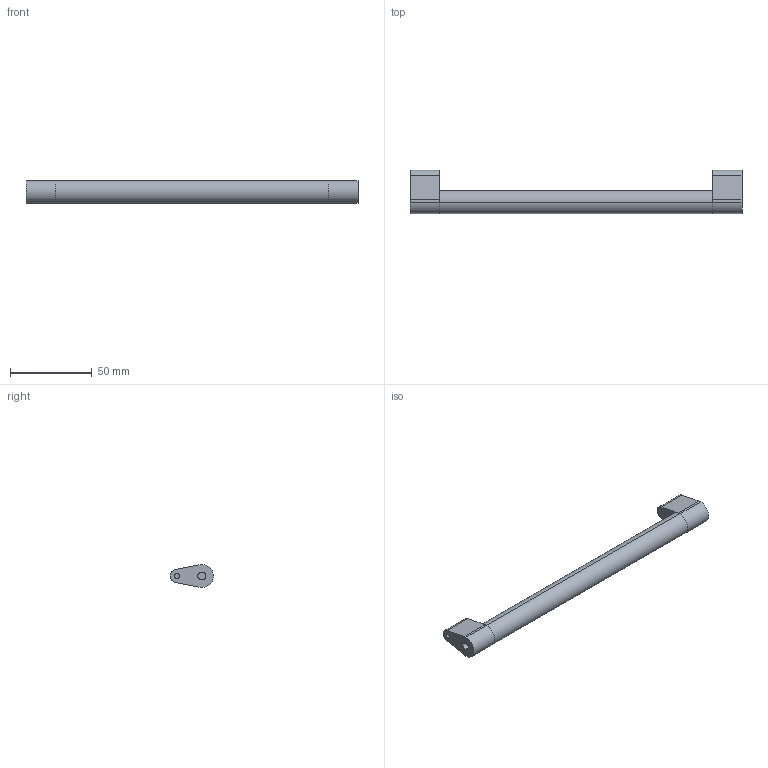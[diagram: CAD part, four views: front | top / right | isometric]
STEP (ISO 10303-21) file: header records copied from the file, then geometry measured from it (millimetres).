
FILE_DESCRIPTION (( 'STEP AP214' ), '1' );
FILE_NAME ('_Synchronisationseinheit DWD XP KAB300_S18.step', '2010-07-08T13:58:22', ( 'grass' ), ( '' ), 'SwSTEP 2.0', 'SolidWorks 2010', '' );
FILE_SCHEMA (( 'AUTOMOTIVE_DESIGN' ));
Length unit declared in the file: millimetre
Products named in the file (1): _Synchronisationseinheit DWD XP KAB300_S18
Bounding box: 203 x 26.5 x 14 mm (x, y, z)
Volume: 34936.2 mm3; surface area: 11775.4 mm2
Topology: 3 solids, 3 shells, 36 faces, 78 edges, 52 vertices
Faces by surface type: cylinder 18, plane 18
Entity records: 1050 total; most frequent: DIRECTION 188, CARTESIAN_POINT 167, ORIENTED_EDGE 156, EDGE_CURVE 78, AXIS2_PLACEMENT_3D 73, VERTEX_POINT 52, VECTOR 42, LINE 42
